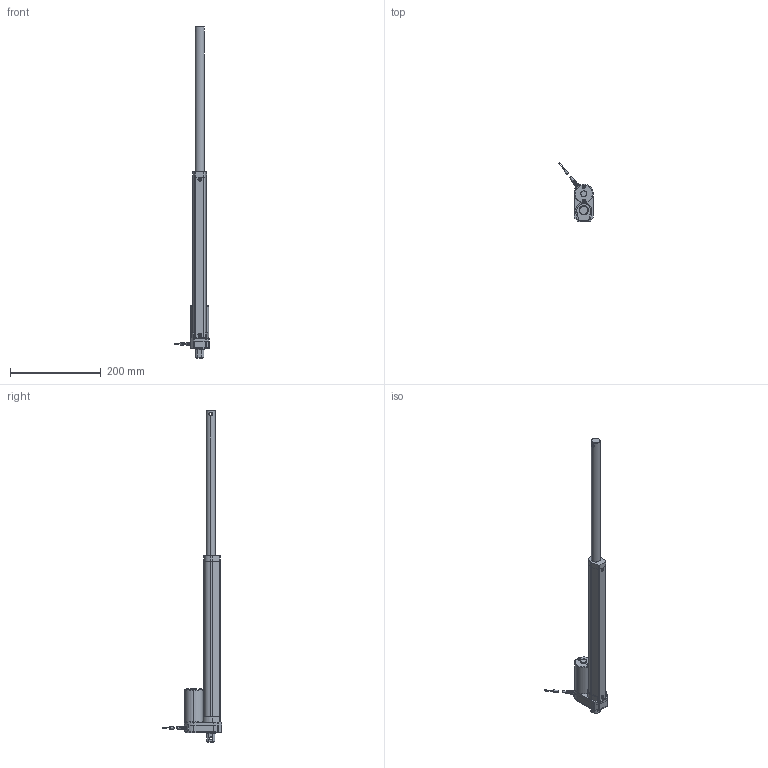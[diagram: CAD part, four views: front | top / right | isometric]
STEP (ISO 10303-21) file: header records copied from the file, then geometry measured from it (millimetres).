
FILE_DESCRIPTION (( 'STEP AP203' ), '1' );
FILE_NAME ('la3300e.step', '2020-08-06T14:26:26', ( '' ), ( '' ), 'SwSTEP 2.0', 'SolidWorks 2017', '' );
FILE_SCHEMA (( 'CONFIG_CONTROL_DESIGN' ));
Length unit declared in the file: millimetre
Products named in the file (1): la3300e
Bounding box: 76.07 x 130.5 x 730 mm (x, y, z)
Volume: 658931.1 mm3; surface area: 118993.4 mm2
Topology: 17 solids, 17 shells, 427 faces, 1050 edges, 686 vertices
Faces by surface type: plane 232, cylinder 159, torus 22, cone 10, bspline 4
Entity records: 15600 total; most frequent: CARTESIAN_POINT 5107, DIRECTION 2266, ORIENTED_EDGE 2100, EDGE_CURVE 1050, AXIS2_PLACEMENT_3D 812, VERTEX_POINT 686, VECTOR 642, LINE 642
